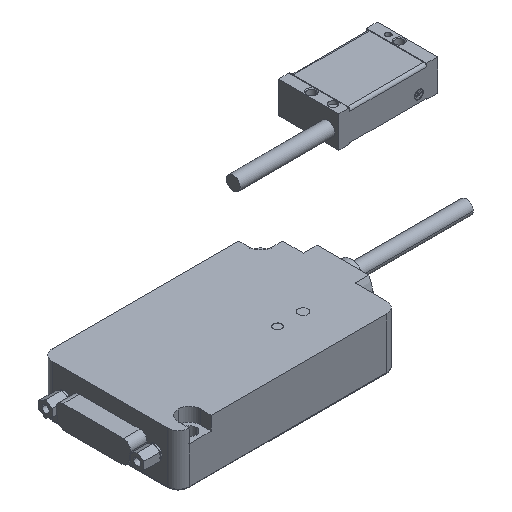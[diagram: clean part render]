
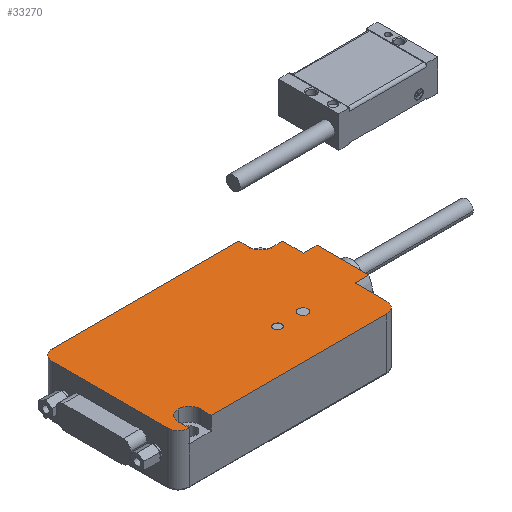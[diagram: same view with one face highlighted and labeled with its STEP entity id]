
A CAD part, isometric view. The second image highlights one B-rep face of the part: STEP entity #33270.
In plain terms, the highlighted planar face has unit normal (0, 0, 1).
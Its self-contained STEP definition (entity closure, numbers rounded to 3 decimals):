
#31440=CARTESIAN_POINT('',(31.531,43.197,11.5));
#31450=DIRECTION('',(0.,0.,1.));
#31460=DIRECTION('',(1.,0.,0.));
#31470=AXIS2_PLACEMENT_3D('',#31440,#31450,#31460);
#31480=PLANE('',#31470);
#31490=CARTESIAN_POINT('',(29.472,-46.3,11.5));
#31500=DIRECTION('',(0.,1.,0.));
#31510=VECTOR('',#31500,1.);
#31520=LINE('',#31490,#31510);
#31530=CARTESIAN_POINT('',(29.472,-38.3,11.5));
#31540=VERTEX_POINT('',#31530);
#31550=CARTESIAN_POINT('',(29.472,-30.708,11.5));
#31560=VERTEX_POINT('',#31550);
#31570=EDGE_CURVE('',#31540,#31560,#31520,.T.);
#31580=ORIENTED_EDGE('',*,*,#31570,.F.);
#31590=CARTESIAN_POINT('',(29.472,-30.708,11.5));
#31600=DIRECTION('',(-1.,0.,0.));
#31610=VECTOR('',#31600,1.);
#31620=LINE('',#31590,#31610);
#31630=CARTESIAN_POINT('',(24.472,-30.708,11.5));
#31640=VERTEX_POINT('',#31630);
#31650=EDGE_CURVE('',#31560,#31640,#31620,.T.);
#31660=ORIENTED_EDGE('',*,*,#31650,.F.);
#31670=CARTESIAN_POINT('',(24.472,-11.892,11.5));
#31680=DIRECTION('',(0.,-1.,0.));
#31690=VECTOR('',#31680,1.);
#31700=LINE('',#31670,#31690);
#31710=CARTESIAN_POINT('',(24.472,-11.892,11.5));
#31720=VERTEX_POINT('',#31710);
#31730=EDGE_CURVE('',#31720,#31640,#31700,.T.);
#31740=ORIENTED_EDGE('',*,*,#31730,.T.);
#31750=CARTESIAN_POINT('',(29.472,-11.892,11.5));
#31760=DIRECTION('',(-1.,0.,0.));
#31770=VECTOR('',#31760,1.);
#31780=LINE('',#31750,#31770);
#31790=CARTESIAN_POINT('',(29.472,-11.892,11.5));
#31800=VERTEX_POINT('',#31790);
#31810=EDGE_CURVE('',#31800,#31720,#31780,.T.);
#31820=ORIENTED_EDGE('',*,*,#31810,.T.);
#31830=CARTESIAN_POINT('',(29.472,-0.3,11.5));
#31840=VERTEX_POINT('',#31830);
#31850=EDGE_CURVE('',#31800,#31840,#31520,.T.);
#31860=ORIENTED_EDGE('',*,*,#31850,.F.);
#31870=CARTESIAN_POINT('',(33.472,-0.3,11.5));
#31880=DIRECTION('',(0.,0.,1.));
#31890=DIRECTION('',(1.,0.,0.));
#31900=AXIS2_PLACEMENT_3D('',#31870,#31880,#31890);
#31910=CIRCLE('',#31900,4.);
#31920=CARTESIAN_POINT('',(33.472,3.7,11.5));
#31930=VERTEX_POINT('',#31920);
#31940=EDGE_CURVE('',#31930,#31840,#31910,.T.);
#31950=ORIENTED_EDGE('',*,*,#31940,.T.);
#31960=CARTESIAN_POINT('',(29.472,3.7,11.5));
#31970=DIRECTION('',(1.,0.,0.));
#31980=VECTOR('',#31970,1.);
#31990=LINE('',#31960,#31980);
#32000=CARTESIAN_POINT('',(97.472,3.7,11.5));
#32010=VERTEX_POINT('',#32000);
#32020=EDGE_CURVE('',#31930,#32010,#31990,.T.);
#32030=ORIENTED_EDGE('',*,*,#32020,.F.);
#32040=CARTESIAN_POINT('',(97.472,43.197,11.5));
#32050=DIRECTION('',(0.,1.,0.));
#32060=VECTOR('',#32050,1.);
#32070=LINE('',#32040,#32060);
#32080=CARTESIAN_POINT('',(97.472,-0.3,11.5));
#32090=VERTEX_POINT('',#32080);
#32100=EDGE_CURVE('',#32090,#32010,#32070,.T.);
#32110=ORIENTED_EDGE('',*,*,#32100,.T.);
#32120=CARTESIAN_POINT('',(101.472,-0.3,11.5));
#32130=DIRECTION('',(0.,0.,1.));
#32140=DIRECTION('',(1.,0.,0.));
#32150=AXIS2_PLACEMENT_3D('',#32120,#32130,#32140);
#32160=CIRCLE('',#32150,4.);
#32170=CARTESIAN_POINT('',(101.472,-4.3,11.5));
#32180=VERTEX_POINT('',#32170);
#32190=EDGE_CURVE('',#32090,#32180,#32160,.T.);
#32200=ORIENTED_EDGE('',*,*,#32190,.F.);
#32210=CARTESIAN_POINT('',(101.472,-0.3,11.5));
#32220=DIRECTION('',(0.,0.,1.));
#32230=DIRECTION('',(1.,0.,0.));
#32240=AXIS2_PLACEMENT_3D('',#32210,#32220,#32230);
#32250=CIRCLE('',#32240,4.);
#32260=CARTESIAN_POINT('',(105.472,-0.3,11.5));
#32270=VERTEX_POINT('',#32260);
#32280=EDGE_CURVE('',#32180,#32270,#32250,.T.);
#32290=ORIENTED_EDGE('',*,*,#32280,.F.);
#32300=CARTESIAN_POINT('',(105.472,43.197,11.5));
#32310=DIRECTION('',(0.,-1.,0.));
#32320=VECTOR('',#32310,1.);
#32330=LINE('',#32300,#32320);
#32340=CARTESIAN_POINT('',(105.472,3.7,11.5));
#32350=VERTEX_POINT('',#32340);
#32360=EDGE_CURVE('',#32350,#32270,#32330,.T.);
#32370=ORIENTED_EDGE('',*,*,#32360,.T.);
#32380=CARTESIAN_POINT('',(105.472,-0.3,11.5));
#32390=DIRECTION('',(0.,0.,1.));
#32400=DIRECTION('',(1.,0.,0.));
#32410=AXIS2_PLACEMENT_3D('',#32380,#32390,#32400);
#32420=CIRCLE('',#32410,4.);
#32430=CARTESIAN_POINT('',(109.472,-0.3,11.5));
#32440=VERTEX_POINT('',#32430);
#32450=EDGE_CURVE('',#32440,#32350,#32420,.T.);
#32460=ORIENTED_EDGE('',*,*,#32450,.T.);
#32470=CARTESIAN_POINT('',(109.472,3.7,11.5));
#32480=DIRECTION('',(0.,-1.,0.));
#32490=VECTOR('',#32480,1.);
#32500=LINE('',#32470,#32490);
#32510=CARTESIAN_POINT('',(109.472,-42.3,11.5));
#32520=VERTEX_POINT('',#32510);
#32530=EDGE_CURVE('',#32440,#32520,#32500,.T.);
#32540=ORIENTED_EDGE('',*,*,#32530,.F.);
#32550=CARTESIAN_POINT('',(105.472,-42.3,11.5));
#32560=DIRECTION('',(0.,0.,1.));
#32570=DIRECTION('',(1.,0.,0.));
#32580=AXIS2_PLACEMENT_3D('',#32550,#32560,#32570);
#32590=CIRCLE('',#32580,4.);
#32600=CARTESIAN_POINT('',(105.472,-46.3,11.5));
#32610=VERTEX_POINT('',#32600);
#32620=EDGE_CURVE('',#32610,#32520,#32590,.T.);
#32630=ORIENTED_EDGE('',*,*,#32620,.T.);
#32640=CARTESIAN_POINT('',(109.472,-46.3,11.5));
#32650=DIRECTION('',(-1.,0.,0.));
#32660=VECTOR('',#32650,1.);
#32670=LINE('',#32640,#32660);
#32680=CARTESIAN_POINT('',(37.472,-46.3,11.5));
#32690=VERTEX_POINT('',#32680);
#32700=EDGE_CURVE('',#32610,#32690,#32670,.T.);
#32710=ORIENTED_EDGE('',*,*,#32700,.F.);
#32720=CARTESIAN_POINT('',(37.472,43.197,11.5));
#32730=DIRECTION('',(0.,-1.,0.));
#32740=VECTOR('',#32730,1.);
#32750=LINE('',#32720,#32740);
#32760=CARTESIAN_POINT('',(37.472,-42.3,11.5));
#32770=VERTEX_POINT('',#32760);
#32780=EDGE_CURVE('',#32770,#32690,#32750,.T.);
#32790=ORIENTED_EDGE('',*,*,#32780,.T.);
#32800=CARTESIAN_POINT('',(33.472,-42.3,11.5));
#32810=DIRECTION('',(0.,0.,1.));
#32820=DIRECTION('',(1.,0.,0.));
#32830=AXIS2_PLACEMENT_3D('',#32800,#32810,#32820);
#32840=CIRCLE('',#32830,4.);
#32850=CARTESIAN_POINT('',(33.472,-38.3,11.5));
#32860=VERTEX_POINT('',#32850);
#32870=EDGE_CURVE('',#32770,#32860,#32840,.T.);
#32880=ORIENTED_EDGE('',*,*,#32870,.F.);
#32890=CARTESIAN_POINT('',(31.531,-38.3,11.5));
#32900=DIRECTION('',(1.,0.,0.));
#32910=VECTOR('',#32900,1.);
#32920=LINE('',#32890,#32910);
#32930=EDGE_CURVE('',#31540,#32860,#32920,.T.);
#32940=ORIENTED_EDGE('',*,*,#32930,.T.);
#32950=EDGE_LOOP('',(#32940,#32880,#32790,#32710,#32630,#32540,#32460,
#32370,#32290,#32200,#32110,#32030,#31950,#31860,#31820,#31740,#31660,
#31580));
#32960=FACE_OUTER_BOUND('',#32950,.T.);
#32970=CARTESIAN_POINT('',(57.272,-12.3,11.5));
#32980=DIRECTION('',(0.,0.,1.));
#32990=DIRECTION('',(1.,0.,0.));
#33000=AXIS2_PLACEMENT_3D('',#32970,#32980,#32990);
#33010=CIRCLE('',#33000,1.5);
#33020=CARTESIAN_POINT('',(58.772,-12.3,11.5));
#33030=VERTEX_POINT('',#33020);
#33040=CARTESIAN_POINT('',(55.772,-12.3,11.5));
#33050=VERTEX_POINT('',#33040);
#33060=EDGE_CURVE('',#33030,#33050,#33010,.T.);
#33070=ORIENTED_EDGE('',*,*,#33060,.F.);
#33080=EDGE_CURVE('',#33050,#33030,#33010,.T.);
#33090=ORIENTED_EDGE('',*,*,#33080,.F.);
#33100=EDGE_LOOP('',(#33090,#33070));
#33110=FACE_BOUND('',#33100,.T.);
#33120=CARTESIAN_POINT('',(47.972,-12.3,11.5));
#33130=DIRECTION('',(0.,0.,1.));
#33140=DIRECTION('',(1.,0.,0.));
#33150=AXIS2_PLACEMENT_3D('',#33120,#33130,#33140);
#33160=CIRCLE('',#33150,1.75);
#33170=CARTESIAN_POINT('',(49.722,-12.3,11.5));
#33180=VERTEX_POINT('',#33170);
#33190=CARTESIAN_POINT('',(46.222,-12.3,11.5));
#33200=VERTEX_POINT('',#33190);
#33210=EDGE_CURVE('',#33180,#33200,#33160,.T.);
#33220=ORIENTED_EDGE('',*,*,#33210,.F.);
#33230=EDGE_CURVE('',#33200,#33180,#33160,.T.);
#33240=ORIENTED_EDGE('',*,*,#33230,.F.);
#33250=EDGE_LOOP('',(#33240,#33220));
#33260=FACE_BOUND('',#33250,.T.);
#33270=ADVANCED_FACE('',(#32960,#33110,#33260),#31480,.T.);
